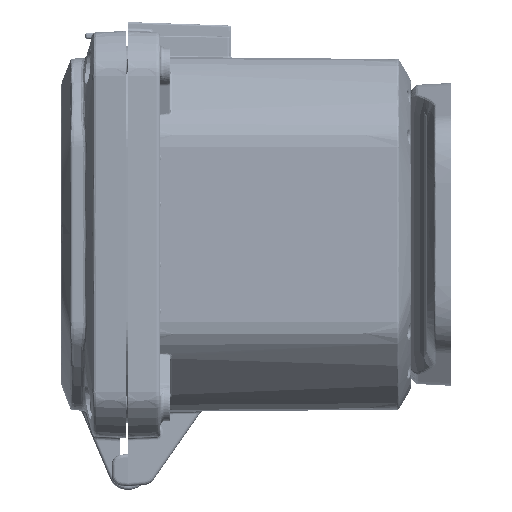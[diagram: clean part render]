
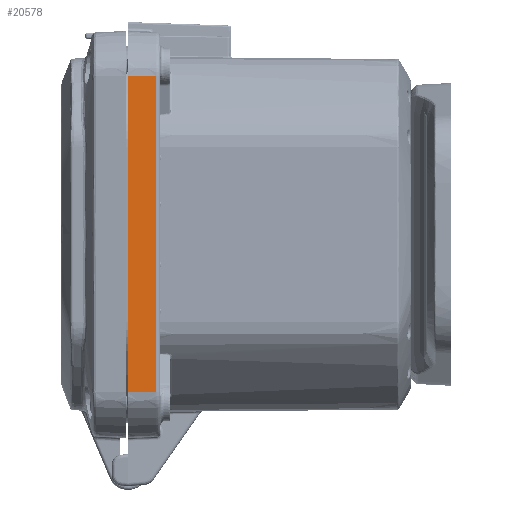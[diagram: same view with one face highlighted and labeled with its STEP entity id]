
A CAD part, left-side view. The second image highlights one B-rep face of the part: STEP entity #20578.
In plain terms, the highlighted planar face has unit normal (-0.999, -0.035, 0).
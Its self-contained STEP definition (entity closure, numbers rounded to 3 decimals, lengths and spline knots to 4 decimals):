
#4412 = CARTESIAN_POINT ( 'NONE',  ( -3.52, 0., 1.9576 ) ) ;
#19049 = PLANE ( 'NONE',  #114277 ) ;
#20578 = ADVANCED_FACE ( 'NONE', ( #135815 ), #19049, .T. ) ;
#20839 = LINE ( 'NONE', #170000, #54161 ) ;
#21501 = DIRECTION ( 'NONE',  ( -0.999, -0.035, 0. ) ) ;
#29902 = DIRECTION ( 'NONE',  ( 0., 0., 1. ) ) ;
#38363 = LINE ( 'NONE', #243472, #209342 ) ;
#46716 = ORIENTED_EDGE ( 'NONE', *, *, #197096, .F. ) ;
#54161 = VECTOR ( 'NONE', #188630, 39.3701 ) ;
#56723 = EDGE_CURVE ( 'NONE', #208322, #224814, #20839, .T. ) ;
#61678 = EDGE_LOOP ( 'NONE', ( #64262, #178666, #46716, #153588 ) ) ;
#64262 = ORIENTED_EDGE ( 'NONE', *, *, #127590, .T. ) ;
#72043 = DIRECTION ( 'NONE',  ( 0., 0., 1. ) ) ;
#76496 = EDGE_CURVE ( 'NONE', #85108, #81474, #131091, .T. ) ;
#81474 = VERTEX_POINT ( 'NONE', #183832 ) ;
#84653 = CARTESIAN_POINT ( 'NONE',  ( -3.52, 0., 2.2 ) ) ;
#85108 = VERTEX_POINT ( 'NONE', #125873 ) ;
#87467 = CARTESIAN_POINT ( 'NONE',  ( -3.5077, -0.3517, 1.9576 ) ) ;
#92570 = DIRECTION ( 'NONE',  ( 0.035, -0.999, 0. ) ) ;
#114277 = AXIS2_PLACEMENT_3D ( 'NONE', #134601, #21501, #206710 ) ;
#117287 = VECTOR ( 'NONE', #29902, 39.3701 ) ;
#125873 = CARTESIAN_POINT ( 'NONE',  ( -3.52, 0., -1.9576 ) ) ;
#127590 = EDGE_CURVE ( 'NONE', #81474, #224814, #38363, .T. ) ;
#131091 = LINE ( 'NONE', #170792, #195760 ) ;
#134601 = CARTESIAN_POINT ( 'NONE',  ( -3.52, 0., 2.2 ) ) ;
#135815 = FACE_OUTER_BOUND ( 'NONE', #61678, .T. ) ;
#153588 = ORIENTED_EDGE ( 'NONE', *, *, #76496, .T. ) ;
#170000 = CARTESIAN_POINT ( 'NONE',  ( -3.52, 0., 1.9576 ) ) ;
#170792 = CARTESIAN_POINT ( 'NONE',  ( -3.52, 0., -1.9576 ) ) ;
#178666 = ORIENTED_EDGE ( 'NONE', *, *, #56723, .F. ) ;
#183832 = CARTESIAN_POINT ( 'NONE',  ( -3.5077, -0.3517, -1.9576 ) ) ;
#188630 = DIRECTION ( 'NONE',  ( 0.035, -0.999, 0. ) ) ;
#195760 = VECTOR ( 'NONE', #92570, 39.3701 ) ;
#197096 = EDGE_CURVE ( 'NONE', #85108, #208322, #218782, .T. ) ;
#206710 = DIRECTION ( 'NONE',  ( 0.035, -0.999, 0. ) ) ;
#208322 = VERTEX_POINT ( 'NONE', #4412 ) ;
#209342 = VECTOR ( 'NONE', #72043, 39.3701 ) ;
#218782 = LINE ( 'NONE', #84653, #117287 ) ;
#224814 = VERTEX_POINT ( 'NONE', #87467 ) ;
#243472 = CARTESIAN_POINT ( 'NONE',  ( -3.5077, -0.3517, 1.9576 ) ) ;
